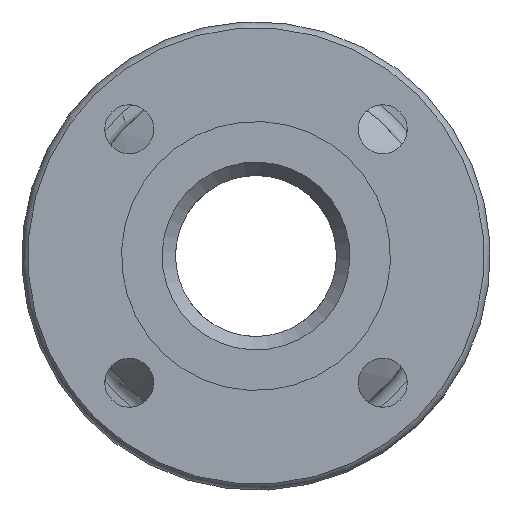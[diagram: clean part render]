
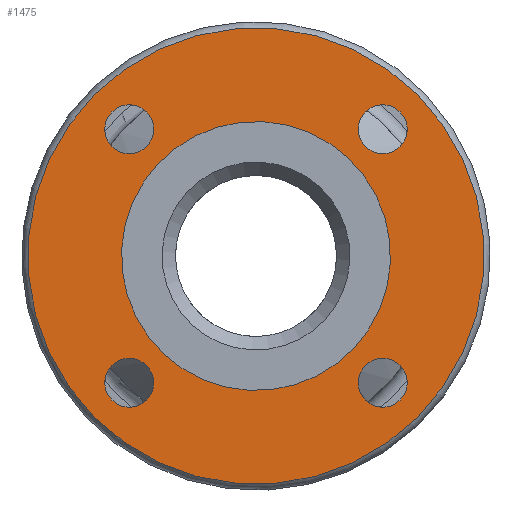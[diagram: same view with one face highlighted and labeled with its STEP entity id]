
A CAD part, front view. The second image highlights one B-rep face of the part: STEP entity #1475.
In plain terms, the highlighted planar face has unit normal (0, -1, 0).
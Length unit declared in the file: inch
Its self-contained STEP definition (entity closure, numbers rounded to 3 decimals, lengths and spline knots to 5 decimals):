
#90=FACE_BOUND('',#359,.T.);
#91=FACE_BOUND('',#360,.T.);
#92=FACE_BOUND('',#361,.T.);
#93=FACE_BOUND('',#362,.T.);
#94=FACE_BOUND('',#363,.T.);
#232=FACE_OUTER_BOUND('',#358,.T.);
#358=EDGE_LOOP('',(#1028));
#359=EDGE_LOOP('',(#1029));
#360=EDGE_LOOP('',(#1030));
#361=EDGE_LOOP('',(#1031));
#362=EDGE_LOOP('',(#1032));
#363=EDGE_LOOP('',(#1033));
#626=CIRCLE('',#1605,3.5);
#627=CIRCLE('',#1606,0.375);
#628=CIRCLE('',#1607,0.375);
#629=CIRCLE('',#1608,0.375);
#630=CIRCLE('',#1609,0.375);
#631=CIRCLE('',#1610,2.0625);
#760=VERTEX_POINT('',#2388);
#761=VERTEX_POINT('',#2390);
#762=VERTEX_POINT('',#2392);
#763=VERTEX_POINT('',#2394);
#764=VERTEX_POINT('',#2396);
#765=VERTEX_POINT('',#2398);
#894=EDGE_CURVE('',#760,#760,#626,.T.);
#895=EDGE_CURVE('',#761,#761,#627,.T.);
#896=EDGE_CURVE('',#762,#762,#628,.T.);
#897=EDGE_CURVE('',#763,#763,#629,.T.);
#898=EDGE_CURVE('',#764,#764,#630,.T.);
#899=EDGE_CURVE('',#765,#765,#631,.T.);
#1028=ORIENTED_EDGE('',*,*,#894,.T.);
#1029=ORIENTED_EDGE('',*,*,#895,.T.);
#1030=ORIENTED_EDGE('',*,*,#896,.T.);
#1031=ORIENTED_EDGE('',*,*,#897,.T.);
#1032=ORIENTED_EDGE('',*,*,#898,.T.);
#1033=ORIENTED_EDGE('',*,*,#899,.F.);
#1296=PLANE('',#1604);
#1475=ADVANCED_FACE('',(#232,#90,#91,#92,#93,#94),#1296,.T.);
#1604=AXIS2_PLACEMENT_3D('',#2387,#1866,#1867);
#1605=AXIS2_PLACEMENT_3D('',#2389,#1868,#1869);
#1606=AXIS2_PLACEMENT_3D('',#2391,#1870,#1871);
#1607=AXIS2_PLACEMENT_3D('',#2393,#1872,#1873);
#1608=AXIS2_PLACEMENT_3D('',#2395,#1874,#1875);
#1609=AXIS2_PLACEMENT_3D('',#2397,#1876,#1877);
#1610=AXIS2_PLACEMENT_3D('',#2399,#1878,#1879);
#1866=DIRECTION('center_axis',(0.,-1.,0.));
#1867=DIRECTION('ref_axis',(-0.707,0.,0.707));
#1868=DIRECTION('center_axis',(0.,-1.,0.));
#1869=DIRECTION('ref_axis',(-0.707,0.,0.707));
#1870=DIRECTION('center_axis',(0.,1.,0.));
#1871=DIRECTION('ref_axis',(-0.707,0.,-0.707));
#1872=DIRECTION('center_axis',(0.,1.,0.));
#1873=DIRECTION('ref_axis',(0.707,0.,-0.707));
#1874=DIRECTION('center_axis',(0.,1.,0.));
#1875=DIRECTION('ref_axis',(0.707,0.,0.707));
#1876=DIRECTION('center_axis',(0.,1.,0.));
#1877=DIRECTION('ref_axis',(-0.707,0.,0.707));
#1878=DIRECTION('center_axis',(0.,-1.,0.));
#1879=DIRECTION('ref_axis',(0.687,0.,0.727));
#2387=CARTESIAN_POINT('Origin',(0.,0.375,
0.));
#2388=CARTESIAN_POINT('',(2.47487,0.375,-2.47487));
#2389=CARTESIAN_POINT('Origin',(0.,0.375,
0.));
#2390=CARTESIAN_POINT('',(1.67938,0.375,-2.20971));
#2391=CARTESIAN_POINT('Origin',(1.94454,0.375,-1.94454));
#2392=CARTESIAN_POINT('',(2.20971,0.375,1.67938));
#2393=CARTESIAN_POINT('Origin',(1.94454,0.375,1.94454));
#2394=CARTESIAN_POINT('',(-1.67938,0.375,2.20971));
#2395=CARTESIAN_POINT('Origin',(-1.94454,0.375,1.94454));
#2396=CARTESIAN_POINT('',(-2.20971,0.375,-1.67938));
#2397=CARTESIAN_POINT('Origin',(-1.94454,0.375,-1.94454));
#2398=CARTESIAN_POINT('',(-1.41681,0.375,-1.49885));
#2399=CARTESIAN_POINT('Origin',(0.,0.375,0.));
